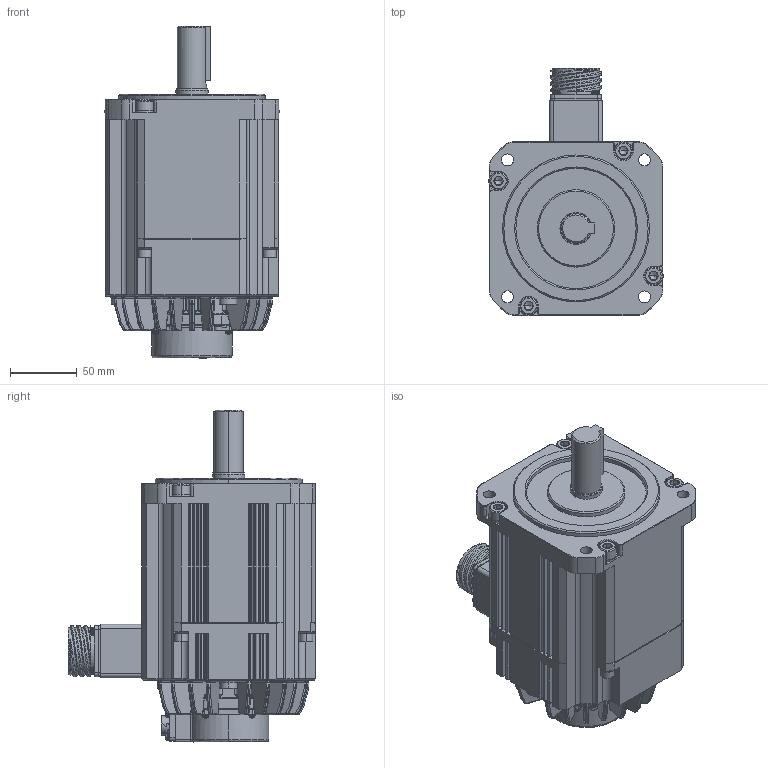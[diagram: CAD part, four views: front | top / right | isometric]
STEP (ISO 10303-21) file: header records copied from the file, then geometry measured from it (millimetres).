
FILE_DESCRIPTION (( 'STEP AP203' ), '1' );
FILE_NAME ('TSM3506N7373E721‘•”z.STEP', '2018-06-25T05:02:13', ( '' ), ( '' ), 'SwSTEP 2.0', 'SolidWorks 2017', '' );
FILE_SCHEMA (( 'CONFIG_CONTROL_DESIGN' ));
Products named in the file (2): Part48^TSM3506N7373E721装配; TSM3506N7373E721装配
Assembly tree (1 placements, depth 2):
  TSM3506N7373E721装配
    Part48^TSM3506N7373E721装配
Bounding box: 130.5 x 185.2 x 248.5 mm (x, y, z)
Volume: 2451812.6 mm3; surface area: 178214.2 mm2
Topology: 1 solids, 24 shells, 3261 faces, 8276 edges, 5054 vertices
Faces by surface type: plane 1060, cylinder 1030, bspline 804, cone 258, sphere 64, torus 45
Entity records: 160485 total; most frequent: CARTESIAN_POINT 89381, ORIENTED_EDGE 16274, DIRECTION 12474, EDGE_CURVE 8137, VERTEX_POINT 5032, AXIS2_PLACEMENT_3D 4378, VECTOR 3718, LINE 3718
